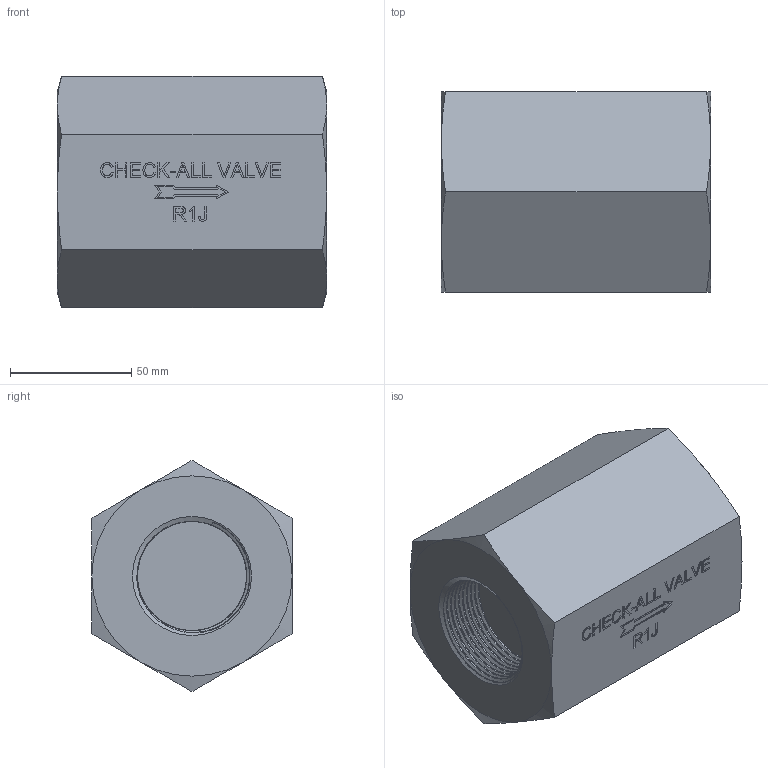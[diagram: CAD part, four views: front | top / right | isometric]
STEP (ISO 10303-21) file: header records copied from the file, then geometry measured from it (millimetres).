
FILE_DESCRIPTION( ( 'Unknown' ), '1' );
FILE_NAME( 'Y:/ENGR/3D Solid Edge Models/R1/stp/R1J.stp', 'Unknown', ( 'Unknown' ), ( 'Unknown' ), 'PSStep 16.0.42', 'Unknown', ' ' );
FILE_SCHEMA( ( 'AUTOMOTIVE_DESIGN { 1 0 10303 214 1 1 1 1 }' ) );
Length unit declared in the file: millimetre
Products named in the file (1): 1
Bounding box: 110.95 x 82.55 x 95.32 mm (x, y, z)
Volume: 580627.8 mm3; surface area: 53814.6 mm2
Topology: 1 solids, 1 shells, 216 faces, 558 edges, 368 vertices
Faces by surface type: extrusion 134, plane 56, cone 14, bspline 10, cylinder 2
Entity records: 44521 total; most frequent: CARTESIAN_POINT 37964, ORIENTED_EDGE 1108, DIRECTION 642, EDGE_CURVE 554, VECTOR 460, VERTEX_POINT 366, B_SPLINE_CURVE_WITH_KNOTS 338, LINE 326
